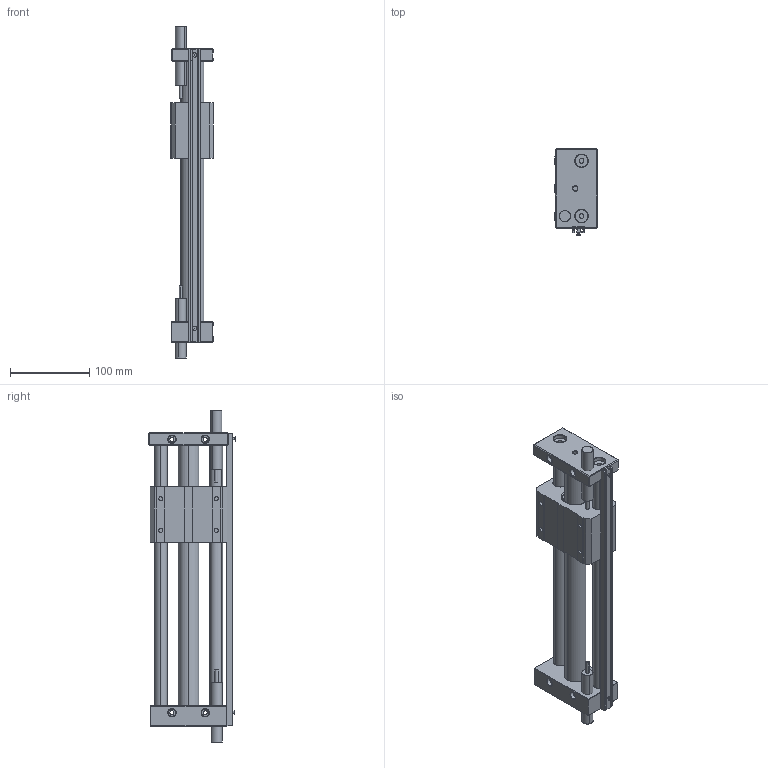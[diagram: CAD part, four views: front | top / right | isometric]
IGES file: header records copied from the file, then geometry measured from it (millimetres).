
Start section: SolidWorks IGES file using analytic representation for surfaces
Global section: file name: D:\Documents de SGA\Pieces 2D et 3D\GRU\iges\GRU 25.250.IGS; native system: SolidWorks 2010; preprocessor: SolidWorks 2010; author: SGA; date: 111216.110159; units: millimetre
Bounding box: 54 x 108.75 x 419.52 mm (x, y, z)
Surface area: 180995.1 mm2 (no closed solid volume)
Topology: 0 solids, 0 shells, 294 faces, 4396 edges, 4396 vertices
Faces by surface type: revolution 158, bspline 136
